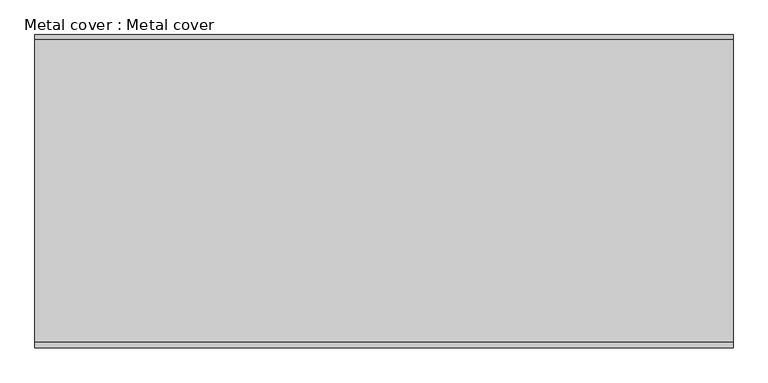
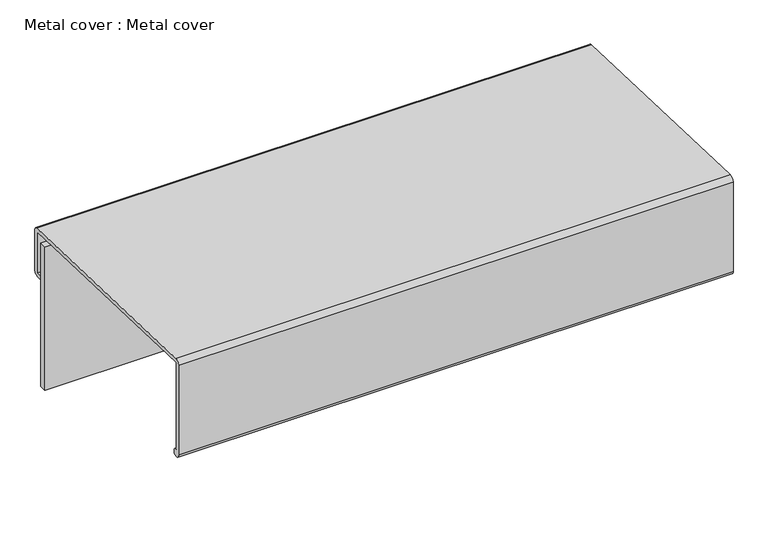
"""IFC4 building model written with IfcOpenShell, lengths in millimetres: proxy geometry, Metal cover : Metal cover."""

from ifc_helpers import new_model, si_unit, point, frame, frame_2d, origin, place, context, project, spatial, polyline, circle_curve, trimmed, segment, composite_curve, outline, extrude, source, transform, mapped, element, save


def metal_cover_metal_cover_49b3120f(model_context):
    return source(origin(), model_context, "Body", "SweptSolid", [
        extrude(outline(composite_curve([segment(trimmed(circle_curve(frame_2d((14573.5088588, 2106.8694477)), 10.0), [point((14563.5088588, 2106.8694477))], [point((14573.8578538, 2116.8633559))], False, "CARTESIAN"), True, "CONTINUOUS"), segment(polyline([(14573.8578538, 2116.8633559), (15094.8035249, 2098.6715322)]), True, "CONTINUOUS"), segment(trimmed(circle_curve(frame_2d((15094.5394156, 2091.1084317)), 7.5677106), [point((15094.8035249, 2098.6715322))], [point((15102.1071263, 2091.1084317))], False, "CARTESIAN"), True, "CONTINUOUS"), segment(polyline([(15102.1071263, 2091.1084317), (15102.1071263, 1998.7807354)]), True, "CONTINUOUS"), segment(trimmed(circle_curve(frame_2d((15092.1071263, 1998.7807354)), 10.0), [point((15102.1071263, 1998.7807354))], [point((15092.1071263, 1988.7807354))], False, "CARTESIAN"), True, "CONTINUOUS"), segment(polyline([(15092.1071263, 1988.7807354), (15082.9184337, 1988.7807354), (15082.9184337, 1996.7807354), (15094.1071263, 1996.7807354), (15094.1071263, 2090.6909747), (14571.5088588, 2108.9405083), (14571.5088588, 1909.8897829)]), True, "CONTINUOUS"), segment(trimmed(circle_curve(frame_2d((14572.0833827, 1901.3345282)), 8.5745239), [point((14571.5088588, 1909.8897829))], [point((14563.5088588, 1901.3345282))], False, "CARTESIAN"), True, "CONTINUOUS"), segment(polyline([(14563.5088588, 1901.3345282), (14563.5088588, 2106.8694477)]), True, "CONTINUOUS")], self_intersect=False)), frame((17486.0136184, 0.0, 0.0), z_axis=(1.0, 0.0, 0.0), x_axis=(0.0, 1.0, 0.0)), (0.0, 0.0, 1.0), 1200.0),
        extrude(outline(polyline([(18686.0136184, 15079.859824), (18686.0136184, 15064.859824), (17486.0136184, 15064.859824), (17486.0136184, 15079.859824), (18686.0136184, 15079.859824)])), frame((0.0, 0.0, 1745.7999816), z_axis=(0.0, 0.0, 1.0), x_axis=(1.0, 0.0, 0.0)), (0.0, 0.0, 1.0), 328.2696746),
    ])


if __name__ == "__main__":
    model = new_model("IFC4")
    model_context = context("Model", 3, world=origin())
    ifc_project = project(units=[si_unit("LENGTHUNIT", "METRE", prefix="MILLI")], contexts=[model_context])
    site = spatial("IfcSite", under=ifc_project)
    building = spatial("IfcBuilding", under=site)
    placement = place(None, origin())
    metal_cover_metal_cover_shape = metal_cover_metal_cover_49b3120f(model_context)
    element("IfcBuildingElementProxy", 1, Name="Metal cover : Metal cover", ObjectType="Metal cover : Metal cover", at=placement, inside=building, context=model_context, shape_type="MappedRepresentation", body=[
        mapped(metal_cover_metal_cover_shape, transform((0.0, 0.0, 0.0), x_axis=(1.0, 0.0, 0.0), y_axis=(0.0, 1.0, 0.0), z_axis=(0.0, 0.0, 1.0))),
    ])
    save(model, "model.ifc")
